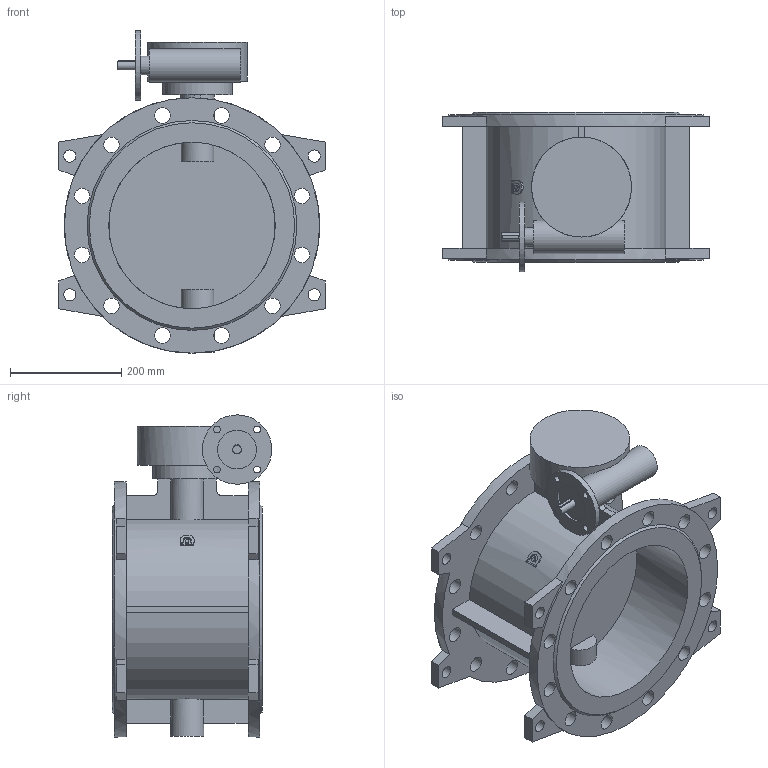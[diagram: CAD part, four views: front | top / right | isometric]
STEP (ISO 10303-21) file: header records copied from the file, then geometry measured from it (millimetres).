
FILE_DESCRIPTION(('STEP AP203'), '1');
FILE_NAME('Çàòâîð 023F.Z DN300 PN16_ð-ð_ôë', '', ('UNSPECIFIED'), ('UNSPECIFIED'), 'ASCON STEP Converter 1.6', 'ASCON Math Kernel', '');
FILE_SCHEMA(('CONFIG_CONTROL_DESIGN'));
Length unit declared in the file: millimetre
Bounding box: 480 x 287.5 x 580.5 mm (x, y, z)
Volume: 12884872.1 mm3; surface area: 1326539.8 mm2
Topology: 1 solids, 1 shells, 170 faces, 433 edges, 288 vertices
Faces by surface type: plane 95, cylinder 73, cone 2
Full cylindrical faces by diameter (mm): 8.3 x4, 12 x8, 16 x1, 22 x8, 28 x24, 34 x1, 60 x2, 70 x1, 125 x2, 180 x1, 300 x2, 460 x2
Entity records: 7552 total; most frequent: CARTESIAN_POINT 1998, DIRECTION 861, ORIENTED_EDGE 746, EDGE_CURVE 373, AXIS2_PLACEMENT_3D 335, EDGE_LOOP 325, VERTEX_POINT 288, FACE_BOUND 214
